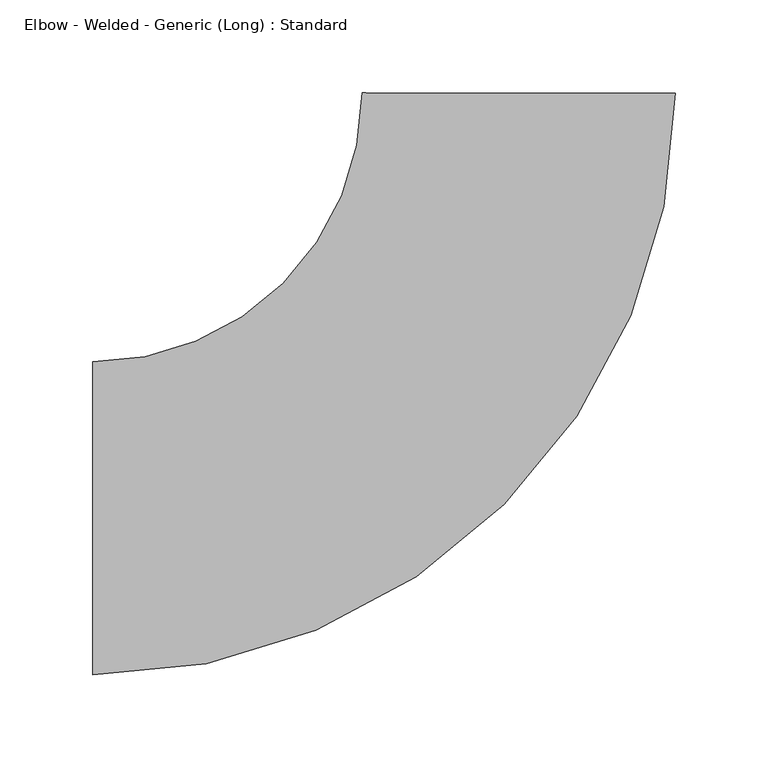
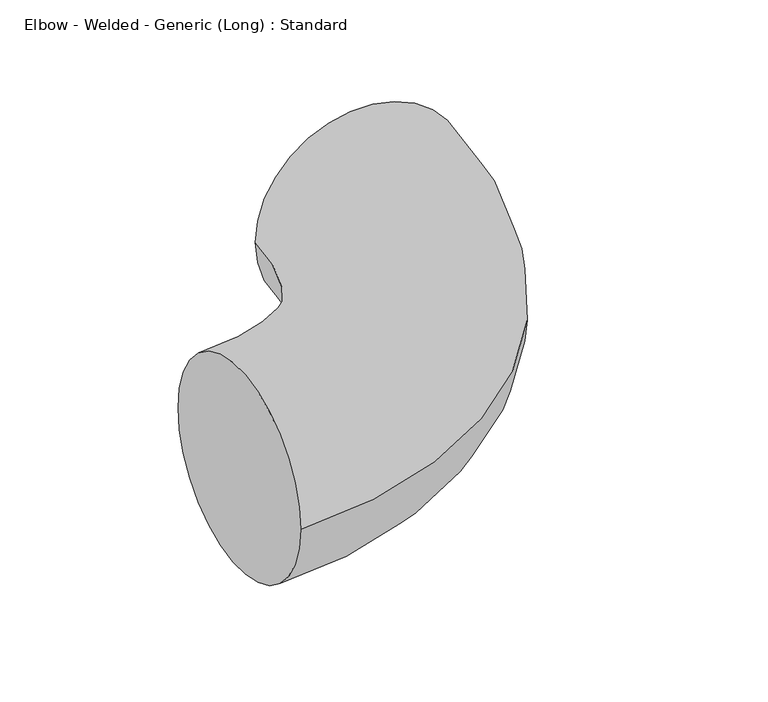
"""IFC4 building model written with IfcOpenShell, lengths in millimetres: pipe fitting geometry, Elbow - Welded - Generic (Long) : Standard."""

import ifcopenshell
import ifcopenshell.guid

model = None  # the IFC model being written
_history = None  # IfcOwnerHistory: only IFC2X3 demands one
_inside = {}  # id of a spatial element -> (the spatial element, [elements in it])
_under = {}  # id of a project, library or spatial element -> (it, [spatial elements below it])
_declared = {}  # id of a project -> (the project, [libraries it declares])
_typed = {}  # id of a type object -> (the type object, [elements of that type])
_made_of = {}  # id of a material, layer set ... -> (it, [elements and type objects made of it])


def new_model(schema):
    """Start an empty IFC model of exactly this schema.

    Asked for "IFC4X3", IfcOpenShell would pick the latest addendum, in which some entities
    have other attributes; the version numbers below select the first issue.
    IFC2X3 requires an IfcOwnerHistory on every rooted entity: one is made here for all.
    """
    global model, _history
    if schema == "IFC4X3":
        model = ifcopenshell.file(schema_version=(4, 3, 0, 0))
    else:
        model = ifcopenshell.file(schema=schema)
    _inside.clear()
    _under.clear()
    _declared.clear()
    _typed.clear()
    _made_of.clear()
    _history = None
    if model.schema == "IFC2X3":
        org = make("IfcOrganization", Name="unknown")
        user = make(
            "IfcPersonAndOrganization",
            ThePerson=make("IfcPerson", FamilyName="unknown"),
            TheOrganization=org,
        )
        app = make(
            "IfcApplication",
            ApplicationDeveloper=org,
            Version="unknown",
            ApplicationFullName="unknown",
            ApplicationIdentifier="unknown",
        )
        _history = make(
            "IfcOwnerHistory",
            OwningUser=user,
            OwningApplication=app,
            ChangeAction="ADDED",
            CreationDate=0,
        )
    return model


def make(cls, **values):
    """One entity of the class cls with the attributes given. An attribute that is None is left unset."""
    return model.create_entity(
        cls, **{name: value for name, value in values.items() if value is not None}
    )


def rooted(cls, **values):
    """An entity with a GlobalId (a new one), such as an element, a storey or a relation."""
    return make(cls, GlobalId=ifcopenshell.guid.new(), OwnerHistory=_history, **values)


def si_unit(unit_type, name, prefix=None):
    """IfcSIUnit, for example si_unit("LENGTHUNIT", "METRE", prefix="MILLI")."""
    return make("IfcSIUnit", UnitType=unit_type, Prefix=prefix, Name=name)


def assignment(units):
    """IfcUnitAssignment: the units of a project."""
    return None if units is None else make("IfcUnitAssignment", Units=units)


def point(xyz):
    """IfcCartesianPoint."""
    return None if xyz is None else make("IfcCartesianPoint", Coordinates=xyz)


def direction(xyz):
    """IfcDirection."""
    return None if xyz is None else make("IfcDirection", DirectionRatios=xyz)


def frame(location, z_axis=None, x_axis=None):
    """IfcAxis2Placement3D, a coordinate frame: its origin and axes. An axis left out is left unset."""
    return make(
        "IfcAxis2Placement3D",
        Location=point(location),
        Axis=direction(z_axis),
        RefDirection=direction(x_axis),
    )


def origin():
    """The frame at (0, 0, 0) with its axes left unset."""
    return frame((0.0, 0.0, 0.0))


def place(relative_to, where):
    """IfcLocalPlacement: puts the frame where relative to a parent placement (None: the world)."""
    return make(
        "IfcLocalPlacement", PlacementRelTo=relative_to, RelativePlacement=where
    )


def context(
    kind, dimensions, precision=None, world=None, true_north=None, identifier=None
):
    """IfcGeometricRepresentationContext, for example the 3D "Model" context."""
    return make(
        "IfcGeometricRepresentationContext",
        ContextIdentifier=identifier,
        ContextType=kind,
        CoordinateSpaceDimension=dimensions,
        Precision=precision,
        WorldCoordinateSystem=world,
        TrueNorth=true_north,
    )


def project(units=None, contexts=None):
    """IfcProject with its units and contexts."""
    return rooted(
        "IfcProject",
        Name="project",
        RepresentationContexts=contexts,
        UnitsInContext=assignment(units),
    )


def spatial(cls, under=None, at=None, **own):
    """A site, building, storey or space (cls), placed at a placement, below another one or the project."""
    s = rooted(cls, ObjectPlacement=at, **own)
    if under is not None:
        _under.setdefault(under.id(), (under, []))[1].append(s)
    return s


def circle_curve(where, radius):
    """IfcCircle in the frame where."""
    return make("IfcCircle", Position=where, Radius=radius)


def ellipse_curve(where, semi_axis1, semi_axis2):
    """IfcEllipse in the frame where."""
    return make(
        "IfcEllipse", Position=where, SemiAxis1=semi_axis1, SemiAxis2=semi_axis2
    )


def trimmed(basis, trim1, trim2, sense, master):
    """IfcTrimmedCurve: the piece of a basis curve between two trims."""
    return make(
        "IfcTrimmedCurve",
        BasisCurve=basis,
        Trim1=trim1,
        Trim2=trim2,
        SenseAgreement=sense,
        MasterRepresentation=master,
    )


def shape(context_of_items, identifier, shape_type, items):
    """IfcShapeRepresentation: the items that make up one representation, for example the "Body"."""
    return make(
        "IfcShapeRepresentation",
        ContextOfItems=context_of_items,
        RepresentationIdentifier=identifier,
        RepresentationType=shape_type,
        Items=items,
    )


def source(mapping_origin, context_of_items, identifier, shape_type, items):
    """IfcRepresentationMap: a shape defined once, which mapped items show again and again."""
    return make(
        "IfcRepresentationMap",
        MappingOrigin=mapping_origin,
        MappedRepresentation=shape(context_of_items, identifier, shape_type, items),
    )


def transform(
    local_origin,
    x_axis=None,
    y_axis=None,
    z_axis=None,
    scale=None,
    scale2=None,
    scale3=None,
    uniform=True,
):
    """IfcCartesianTransformationOperator3D, or its non-uniform kind. x_axis, y_axis, z_axis: its Axis1, 2, 3."""
    if uniform:
        return make(
            "IfcCartesianTransformationOperator3D",
            Axis1=direction(x_axis),
            Axis2=direction(y_axis),
            LocalOrigin=point(local_origin),
            Scale=scale,
            Axis3=direction(z_axis),
        )
    return make(
        "IfcCartesianTransformationOperator3DnonUniform",
        Axis1=direction(x_axis),
        Axis2=direction(y_axis),
        LocalOrigin=point(local_origin),
        Scale=scale,
        Axis3=direction(z_axis),
        Scale2=scale2,
        Scale3=scale3,
    )


def mapped(mapping_source, mapping_target):
    """IfcMappedItem: shows the shape of a source again, moved by a transform."""
    return make(
        "IfcMappedItem", MappingSource=mapping_source, MappingTarget=mapping_target
    )


def made_of(thing, what):
    """Note that an element or type object is made of a material, layer set ...; save() writes the relation."""
    if what is not None:
        _made_of.setdefault(what.id(), (what, []))[1].append(thing)
    return thing


def element(
    cls,
    number,
    at=None,
    inside=None,
    cuts=None,
    type_object=None,
    material=None,
    context=None,
    identifier="Body",
    shape_type=None,
    held_by="IfcProductDefinitionShape",
    body=None,
    shapes=None,
    **own,
):
    """One element of the class cls, such as IfcWall. Its Tag is "e" and its number.

    at: its placement. inside: the storey or other place that contains it. cuts: it is an
    opening in that element (IfcRelVoidsElement). A single representation is given by context,
    identifier, shape_type and body (its items); several are given by shapes. held_by: the class
    of the entity that holds the representations. save() writes the other relations.
    """
    e = rooted(cls, Tag="e%d" % number, ObjectPlacement=at, **own)
    if body is not None:
        shapes = [shape(context, identifier, shape_type, body)]
    if shapes is not None:
        e.Representation = make(held_by, Representations=shapes)
    if inside is not None:
        _inside.setdefault(inside.id(), (inside, []))[1].append(e)
    if cuts is not None:
        rooted(
            "IfcRelVoidsElement", RelatingBuildingElement=cuts, RelatedOpeningElement=e
        )
    if type_object is not None:
        _typed.setdefault(type_object.id(), (type_object, []))[1].append(e)
    return made_of(e, material)


def aggregate(whole, parts):
    """IfcRelAggregates: a whole, such as a stair, and the parts it consists of."""
    return rooted("IfcRelAggregates", RelatingObject=whole, RelatedObjects=parts)


def save(model, path):
    """Write the relations noted so far, then the file.

    IfcRelAggregates (storeys below a building ...), IfcRelContainedInSpatialStructure (elements
    in a storey), IfcRelDefinesByType, IfcRelAssociatesMaterial and IfcRelDeclares: one each for
    every whole, place, type object, material and project.
    """
    for whole, parts in _under.values():
        aggregate(whole, parts)
    for where, things in _inside.values():
        rooted(
            "IfcRelContainedInSpatialStructure",
            RelatedElements=things,
            RelatingStructure=where,
        )
    for kind, things in _typed.values():
        rooted("IfcRelDefinesByType", RelatedObjects=things, RelatingType=kind)
    for what, things in _made_of.values():
        rooted("IfcRelAssociatesMaterial", RelatedObjects=things, RelatingMaterial=what)
    for by, libraries in _declared.values():
        rooted("IfcRelDeclares", RelatingContext=by, RelatedDefinitions=libraries)
    model.write(path)


def plane_surface(at):
    """IfcPlane: the flat surface through the origin of the frame at, square to its z axis."""
    return make("IfcPlane", Position=at)


def revolved_surface(curve, axis_point, axis_direction):
    """IfcSurfaceOfRevolution: the curve turned about the line through axis_point along axis_direction."""
    return make(
        "IfcSurfaceOfRevolution",
        SweptCurve=make("IfcArbitraryOpenProfileDef", ProfileType="CURVE", Curve=curve),
        AxisPosition=make("IfcAxis1Placement", Location=point(axis_point), Axis=direction(axis_direction)),
    )


def advanced_brep(points, edges, surfaces, faces):
    """IfcAdvancedBrep: a solid bounded by faces that lie on surfaces and meet in shared edges.

    An edge is (start, end): straight between two places in points (the first is 0);
    or (start, end, curve); or (start, end, curve, False) where it runs against its curve.
    A face is (place in surfaces, loops), or (place, loops, False) where it looks against
    its surface's normal. A loop lists edges by number (the first is 1), with a minus sign
    where the edge is run from its end to its start. The first loop is the outer one.
    """
    corners = [point(p) for p in points]
    vertices = [make("IfcVertexPoint", VertexGeometry=c) for c in corners]
    made = []
    for start, end, *more in edges:
        made.append(
            make(
                "IfcEdgeCurve",
                EdgeStart=vertices[start],
                EdgeEnd=vertices[end],
                EdgeGeometry=more[0] if more else make("IfcPolyline", Points=[corners[start], corners[end]]),
                SameSense=more[1] if len(more) > 1 else True,
            )
        )
    hull = []
    for where, loops, *sense in faces:
        bounds = []
        for j, loop in enumerate(loops):
            ring = [make("IfcOrientedEdge", EdgeElement=made[abs(k) - 1], Orientation=k > 0) for k in loop]
            bounds.append(
                make(
                    "IfcFaceOuterBound" if j == 0 else "IfcFaceBound",
                    Bound=make("IfcEdgeLoop", EdgeList=ring),
                    Orientation=True,
                )
            )
        hull.append(make("IfcAdvancedFace", Bounds=bounds, FaceSurface=surfaces[where], SameSense=sense[0] if sense else True))
    return make("IfcAdvancedBrep", Outer=make("IfcClosedShell", CfsFaces=hull))


def elbow_welded_generic_long_standard_09782e3d(model_context):
    return source(origin(), model_context, "Body", "AdvancedBrep", [
        advanced_brep(
        [(-228.6, -84.1375, 0.0), (-228.6, 84.1375, 0.0), (84.4401847, 228.4883676, 0.0), (-83.8346677, 228.7112315, 0.0)],
        [
            (0, 1, circle_curve(frame((-228.6, 0.0, 0.0), z_axis=(-1.0, 0.0, 0.0), x_axis=(0.0, 1.0, 0.0)), 84.1375)),
            (1, 0, circle_curve(frame((-228.6, 0.0, 0.0), z_axis=(-1.0, 0.0, 0.0), x_axis=(0.0, 1.0, 0.0)), 84.1375)),
            (2, 3, circle_curve(frame((0.3027585, 228.5997995, 0.0), z_axis=(0.0013244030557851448, 0.9999991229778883, 0.0), x_axis=(-0.9999991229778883, 0.0013244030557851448, 0.0)), 84.1375)),
            (3, 2, circle_curve(frame((0.3027585, 228.5997995, 0.0), z_axis=(0.0013244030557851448, 0.9999991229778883, 0.0), x_axis=(-0.9999991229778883, 0.0013244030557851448, 0.0)), 84.1375)),
            (3, 1, circle_curve(frame((-228.6, 228.9029593, 0.0), z_axis=(0.0, 0.0, -1.0), x_axis=(0.0, -1.0, 0.0)), 144.7654593)),
            (0, 2, circle_curve(frame((-228.6, 228.9029593, 0.0), z_axis=(0.0, 0.0, 1.0), x_axis=(0.0, -1.0, 0.0)), 313.0404593)),
        ],
        [
            plane_surface(frame((-228.6, 0.0, 0.0), z_axis=(-1.0, 0.0, 0.0), x_axis=(0.0, 0.0, 1.0))),
            plane_surface(frame((0.3027585, 228.5997995, 0.0), z_axis=(0.001324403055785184, 0.9999991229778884, 0.0), x_axis=(0.0, 0.0, 1.0))),
            revolved_surface(trimmed(ellipse_curve(frame((-228.6, 0.0, 0.0), z_axis=(-1.0, 0.0, 0.0), x_axis=(0.0, 1.0, 0.0)), 84.1375, 84.1375), [point((-228.6, -84.1375, 0.0))], [point((-228.6, 84.1375, 0.0))], True, "CARTESIAN"), (-228.6, 228.9029593, 0.0), (0.0, 0.0, 1.0)),
            revolved_surface(trimmed(ellipse_curve(frame((-228.6, 0.0, 0.0), z_axis=(-1.0, 0.0, 0.0), x_axis=(0.0, 1.0, 0.0)), 84.1375, 84.1375), [point((-228.6, 84.1375, 0.0))], [point((-228.6, -84.1375, 0.0))], True, "CARTESIAN"), (-228.6, 228.9029593, 0.0), (0.0, 0.0, 1.0)),
        ],
        [
            (0, [[1, 2]]),
            (1, [[3, 4]]),
            (2, [[5, -1, 6, -4]]),
            (3, [[-6, -2, -5, -3]]),
        ],
    ),
    ])


if __name__ == "__main__":
    model = new_model("IFC4")
    model_context = context("Model", 3, world=origin())
    ifc_project = project(units=[si_unit("LENGTHUNIT", "METRE", prefix="MILLI")], contexts=[model_context])
    site = spatial("IfcSite", under=ifc_project)
    building = spatial("IfcBuilding", under=site)
    placement = place(None, origin())
    elbow_welded_generic_long_standard_shape = elbow_welded_generic_long_standard_09782e3d(model_context)
    element("IfcPipeFitting", 1, ObjectType="Elbow - Welded - Generic (Long) : Standard", at=placement, inside=building, context=model_context, shape_type="MappedRepresentation", body=[
        mapped(elbow_welded_generic_long_standard_shape, transform((0.0, 0.0, 0.0), x_axis=(1.0, 0.0, 0.0), y_axis=(0.0, 1.0, 0.0), z_axis=(0.0, 0.0, 1.0))),
    ])
    save(model, "model.ifc")
